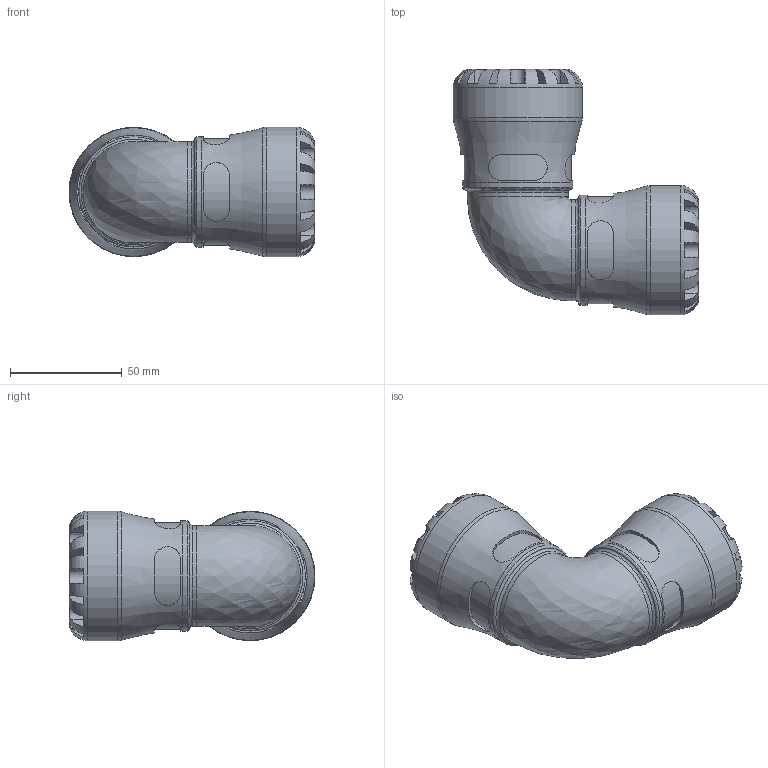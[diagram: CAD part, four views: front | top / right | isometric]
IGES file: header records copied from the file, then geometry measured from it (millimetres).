
Global section: file name: 1005A6010.ipt; native system: Autodesk Inventor 2019; preprocessor: unknown; author: KIM; date: 20210902.120318; units: inch
Bounding box: 109.98 x 109.98 x 57.91 mm (x, y, z)
Volume: 189350.3 mm3; surface area: 45964 mm2
Topology: 1 solids, 1 shells, 196 faces, 513 edges, 327 vertices
Faces by surface type: plane 116, revolution 50, cylinder 30
Full cylindrical faces by diameter (mm): 45.171 x2, 49.225 x2, 57.912 x2
